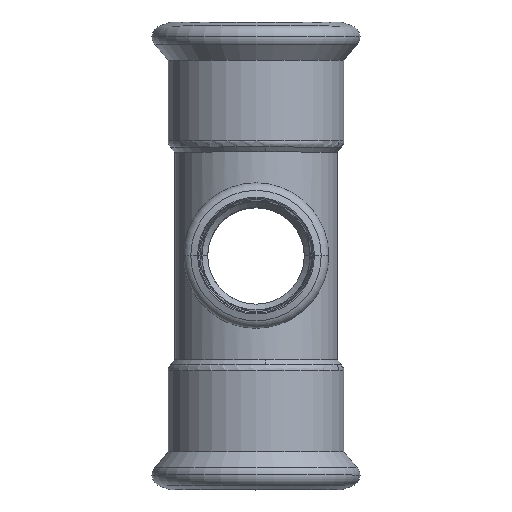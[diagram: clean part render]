
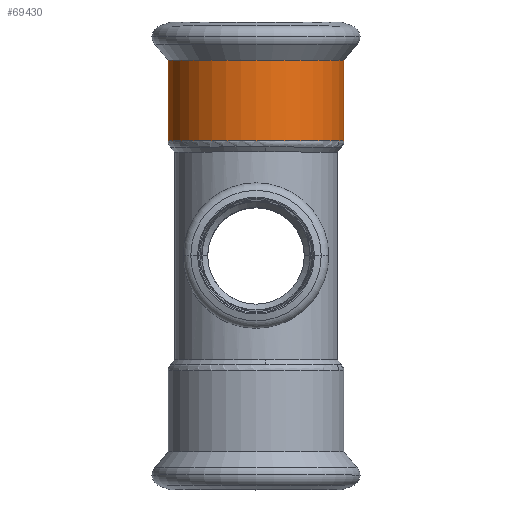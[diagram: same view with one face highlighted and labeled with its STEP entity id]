
A CAD part, top view. The second image highlights one B-rep face of the part: STEP entity #69430.
In plain terms, the highlighted cylindrical face has radius 22.65 mm (diameter 45.3 mm), a partial arc.
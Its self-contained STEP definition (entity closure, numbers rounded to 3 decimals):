
#5950=CARTESIAN_POINT('',(6.028,19.145,
0.));
#5960=VERTEX_POINT('',#5950);
#6010=CARTESIAN_POINT('',(28.678,19.145,
0.));
#6020=DIRECTION('',(0.,1.,0.));
#6030=DIRECTION('',(-1.,0.,0.));
#6040=AXIS2_PLACEMENT_3D('',#6010,#6020,#6030);
#6050=CIRCLE('',#6040,22.65);
#6060=CARTESIAN_POINT('',(51.328,19.145,
0.));
#6070=VERTEX_POINT('',#6060);
#6080=EDGE_CURVE('',#5960,#6070,#6050,.T.);
#68890=CARTESIAN_POINT('',(51.328,39.945,0.));
#68900=VERTEX_POINT('',#68890);
#68950=CARTESIAN_POINT('',(28.678,39.945,0.));
#68960=DIRECTION('',(0.,1.,0.));
#68970=DIRECTION('',(1.,0.,0.));
#68980=AXIS2_PLACEMENT_3D('',#68950,#68960,#68970);
#68990=CIRCLE('',#68980,22.65);
#69000=CARTESIAN_POINT('',(6.028,39.945,
0.));
#69010=VERTEX_POINT('',#69000);
#69020=EDGE_CURVE('',#69010,#68900,#68990,.T.);
#69220=CARTESIAN_POINT('',(28.678,29.545,0.));
#69230=DIRECTION('',(0.,-1.,0.));
#69240=DIRECTION('',(-1.,0.,0.));
#69250=AXIS2_PLACEMENT_3D('',#69220,#69230,#69240);
#69260=CYLINDRICAL_SURFACE('',#69250,22.65);
#69270=CARTESIAN_POINT('',(51.328,29.545,
0.));
#69280=DIRECTION('',(0.,-1.,0.));
#69290=VECTOR('',#69280,1.);
#69300=LINE('',#69270,#69290);
#69310=EDGE_CURVE('',#68900,#6070,#69300,.T.);
#69320=ORIENTED_EDGE('',*,*,#69310,.F.);
#69330=ORIENTED_EDGE('',*,*,#6080,.T.);
#69340=CARTESIAN_POINT('',(6.028,29.545,0.));
#69350=DIRECTION('',(0.,-1.,0.));
#69360=VECTOR('',#69350,1.);
#69370=LINE('',#69340,#69360);
#69380=EDGE_CURVE('',#69010,#5960,#69370,.T.);
#69390=ORIENTED_EDGE('',*,*,#69380,.T.);
#69400=ORIENTED_EDGE('',*,*,#69020,.F.);
#69410=EDGE_LOOP('',(#69400,#69390,#69330,#69320));
#69420=FACE_OUTER_BOUND('',#69410,.T.);
#69430=ADVANCED_FACE('',(#69420),#69260,.T.);
